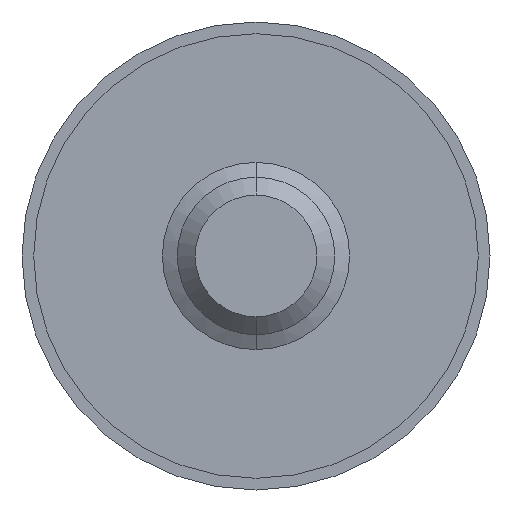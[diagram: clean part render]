
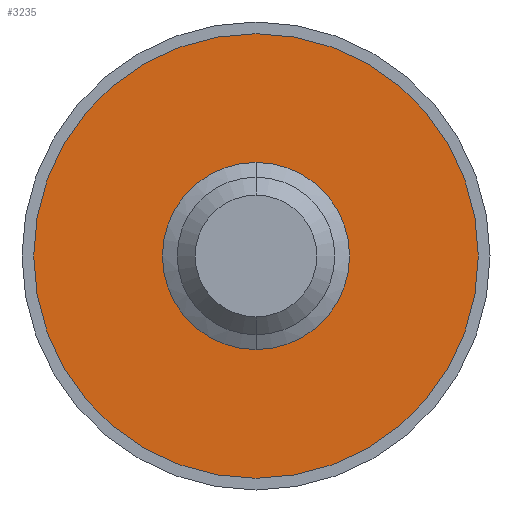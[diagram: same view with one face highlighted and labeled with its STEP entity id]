
A CAD part, front view. The second image highlights one B-rep face of the part: STEP entity #3235.
In plain terms, the highlighted planar face has unit normal (0, -1, 0).
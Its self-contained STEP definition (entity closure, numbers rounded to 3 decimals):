
#8 = CARTESIAN_POINT ( 'NONE',  ( 0., -0.5, 0. ) ) ;
#192 = CARTESIAN_POINT ( 'NONE',  ( 0., -0.5, 0. ) ) ;
#195 = DIRECTION ( 'NONE',  ( 0., 0., 1. ) ) ;
#300 = CIRCLE ( 'NONE', #2406, 4.75 ) ;
#341 = VERTEX_POINT ( 'NONE', #3625 ) ;
#464 = PLANE ( 'NONE',  #639 ) ;
#621 = CARTESIAN_POINT ( 'NONE',  ( 0., -0.5, 0. ) ) ;
#639 = AXIS2_PLACEMENT_3D ( 'NONE', #192, #3103, #3378 ) ;
#646 = DIRECTION ( 'NONE',  ( 0., -1., 0. ) ) ;
#651 = CIRCLE ( 'NONE', #3004, 2. ) ;
#669 = EDGE_CURVE ( 'NONE', #2728, #1381, #2745, .T. ) ;
#682 = CARTESIAN_POINT ( 'NONE',  ( 0., -0.5, -4.75 ) ) ;
#936 = DIRECTION ( 'NONE',  ( 0., 1., 0. ) ) ;
#952 = DIRECTION ( 'NONE',  ( 0., 0., 1. ) ) ;
#978 = CARTESIAN_POINT ( 'NONE',  ( 0., -0.5, 0. ) ) ;
#1314 = CIRCLE ( 'NONE', #1708, 2. ) ;
#1376 = DIRECTION ( 'NONE',  ( 0., 1., 0. ) ) ;
#1381 = VERTEX_POINT ( 'NONE', #682 ) ;
#1480 = FACE_OUTER_BOUND ( 'NONE', #3276, .T. ) ;
#1708 = AXIS2_PLACEMENT_3D ( 'NONE', #621, #646, #1821 ) ;
#1821 = DIRECTION ( 'NONE',  ( 0., 0., -1. ) ) ;
#1920 = CARTESIAN_POINT ( 'NONE',  ( 0., -0.5, 4.75 ) ) ;
#1953 = EDGE_CURVE ( 'NONE', #3221, #341, #1314, .T. ) ;
#2067 = FACE_BOUND ( 'NONE', #3428, .T. ) ;
#2073 = EDGE_CURVE ( 'NONE', #1381, #2728, #300, .T. ) ;
#2109 = AXIS2_PLACEMENT_3D ( 'NONE', #978, #936, #952 ) ;
#2236 = CARTESIAN_POINT ( 'NONE',  ( 0., -0.5, 0. ) ) ;
#2325 = DIRECTION ( 'NONE',  ( 0., 0., -1. ) ) ;
#2406 = AXIS2_PLACEMENT_3D ( 'NONE', #2236, #1376, #195 ) ;
#2569 = ORIENTED_EDGE ( 'NONE', *, *, #2073, .F. ) ;
#2691 = ORIENTED_EDGE ( 'NONE', *, *, #669, .F. ) ;
#2728 = VERTEX_POINT ( 'NONE', #1920 ) ;
#2745 = CIRCLE ( 'NONE', #2109, 4.75 ) ;
#2826 = DIRECTION ( 'NONE',  ( 0., -1., 0. ) ) ;
#3004 = AXIS2_PLACEMENT_3D ( 'NONE', #8, #2826, #2325 ) ;
#3103 = DIRECTION ( 'NONE',  ( 0., 1., 0. ) ) ;
#3221 = VERTEX_POINT ( 'NONE', #3623 ) ;
#3235 = ADVANCED_FACE ( 'NONE', ( #2067, #1480 ), #464, .F. ) ;
#3276 = EDGE_LOOP ( 'NONE', ( #2691, #2569 ) ) ;
#3309 = ORIENTED_EDGE ( 'NONE', *, *, #3469, .F. ) ;
#3378 = DIRECTION ( 'NONE',  ( 0., 0., 1. ) ) ;
#3428 = EDGE_LOOP ( 'NONE', ( #3309, #3670 ) ) ;
#3469 = EDGE_CURVE ( 'NONE', #341, #3221, #651, .T. ) ;
#3623 = CARTESIAN_POINT ( 'NONE',  ( 0., -0.5, -2. ) ) ;
#3625 = CARTESIAN_POINT ( 'NONE',  ( 0., -0.5, 2. ) ) ;
#3670 = ORIENTED_EDGE ( 'NONE', *, *, #1953, .F. ) ;
